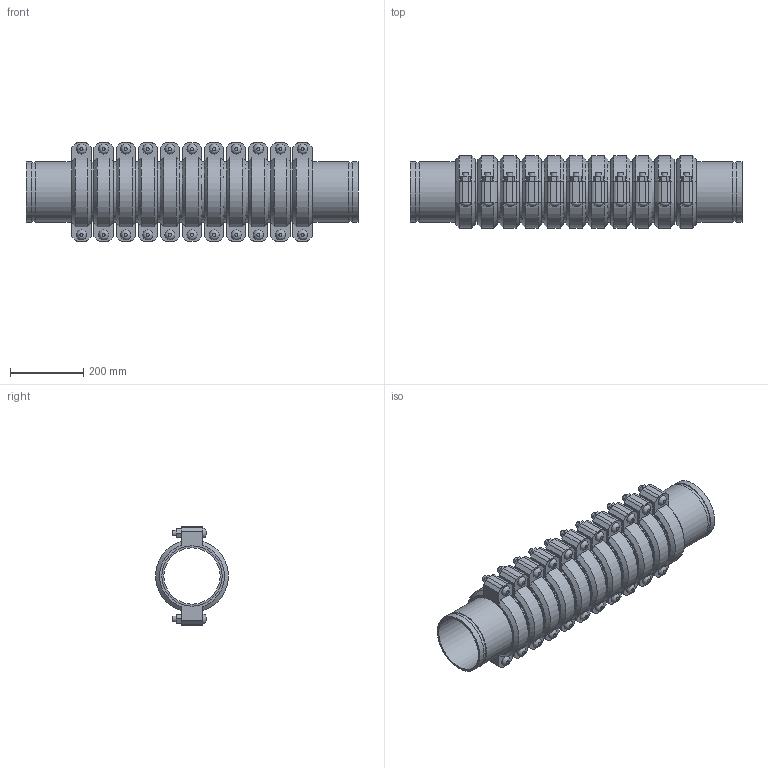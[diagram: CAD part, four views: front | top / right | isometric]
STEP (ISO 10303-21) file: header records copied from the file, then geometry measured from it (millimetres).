
FILE_DESCRIPTION(/* description */ ('VIC EXPANSION JOINT 11 COUPLINGS COMPRESSED STYLE 155 (OGS)','CAx-IF Rec.Pracs.---Representation and Presentation of Product Manufacturing Information (PMI)---4.0---2014-10-13'),/* implementation_level */ '2;1');
FILE_NAME(/* name */ 'C:\Users\kkamble\AppData\Roaming\Autodesk\ApplicationPlugins\Victaulic.Temp\A956\Victaulic_IPS_Expansion Joint_Compressed_11 Couplings_Style 155 (OGS)_06.0 (165.1) (150).stp',/* time_stamp */ '2021-06-27T00:19:26+02:00',/* author */ ('kkamble'),/* organization */ ('Victaulic'),/* preprocessor_version */ 'ST-DEVELOPER v17.2',/* originating_system */ 'Autodesk Inventor 2019',/* authorisation */ '');
FILE_SCHEMA (('AP242_MANAGED_MODEL_BASED_3D_ENGINEERING_MIM_LF { 1 0 10303 442 1 1 4 }'));
Length unit declared in the file: inch
Products named in the file (4): 155-06.0 (165.1); Nipple-06.0 (165.1); Nipple-06.0 (165.1)_1; 075_11_Coup-06.0 (165.1)
Assembly tree (23 placements, depth 2):
  155-06.0 (165.1)
    Nipple-06.0 (165.1)  x2
    Nipple-06.0 (165.1)_1  x10
    075_11_Coup-06.0 (165.1)  x11
Bounding box: 908.56 x 198.42 x 270.76 mm (x, y, z)
Volume: 9985123 mm3; surface area: 2219218 mm2
Topology: 23 solids, 45 shells, 771 faces, 1823 edges, 1278 vertices
Faces by surface type: plane 468, cylinder 237, cone 44, bspline 22
Full cylindrical faces by diameter (mm): 15.875 x44, 17.424 x22, 153.975 x12, 158.75 x11, 160.782 x24, 165.1 x58
Entity records: 2906 total; most frequent: CARTESIAN_POINT 507, DIRECTION 489, ORIENTED_EDGE 386, AXIS2_PLACEMENT_3D 198, EDGE_CURVE 193, VERTEX_POINT 138, EDGE_LOOP 107, LINE 93
